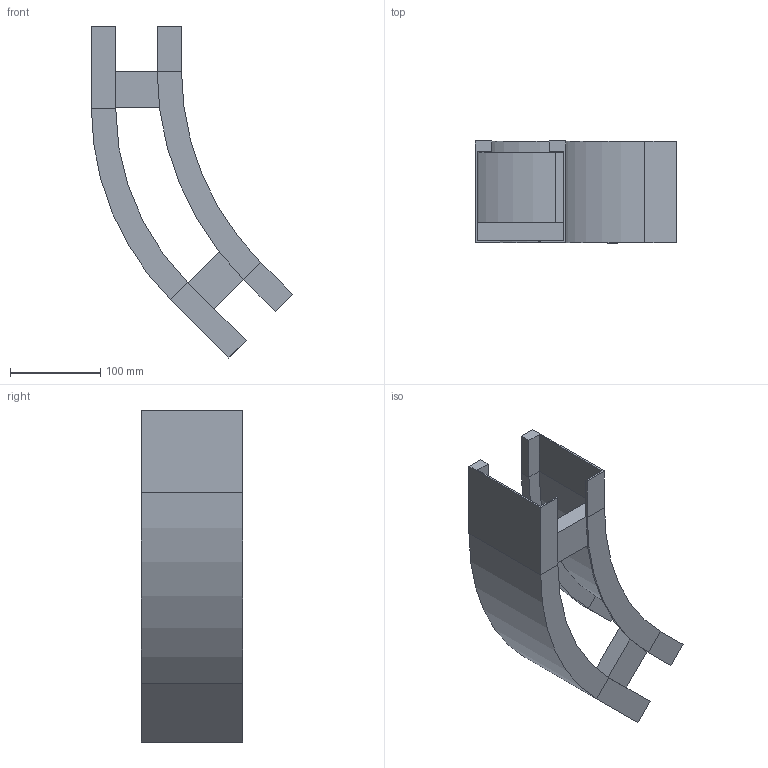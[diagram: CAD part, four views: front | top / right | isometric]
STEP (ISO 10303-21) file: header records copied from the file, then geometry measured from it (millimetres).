
FILE_DESCRIPTION (( 'STEP AP214' ), '1' );
FILE_NAME ('B2_11B3J100.step', '2025-02-21T15:14:41', ( '' ), ( '' ), 'SwSTEP 2.0', 'SolidWorks 2023', '' );
FILE_SCHEMA (( 'AUTOMOTIVE_DESIGN' ));
Length unit declared in the file: millimetre
Products named in the file (4): TRAVERSINO_100; B2_LONGH.INTERNO 45°_H112.5_R300; B2_LONGH.ESTERNO 45°_H112.5_R300+100; B2_11B3J100
Assembly tree (4 placements, depth 2):
  B2_11B3J100
    B2_LONGH.INTERNO 45°_H112.5_R300
    B2_LONGH.ESTERNO 45°_H112.5_R300+100
    TRAVERSINO_100  x2
Bounding box: 223.22 x 112.5 x 368.2 mm (x, y, z)
Volume: 507676.1 mm3; surface area: 262859.4 mm2
Topology: 4 solids, 4 shells, 64 faces, 136 edges, 80 vertices
Faces by surface type: plane 56, cylinder 8
Entity records: 1637 total; most frequent: DIRECTION 270, CARTESIAN_POINT 261, ORIENTED_EDGE 248, EDGE_CURVE 124, LINE 108, VECTOR 108, AXIS2_PLACEMENT_3D 81, VERTEX_POINT 72
